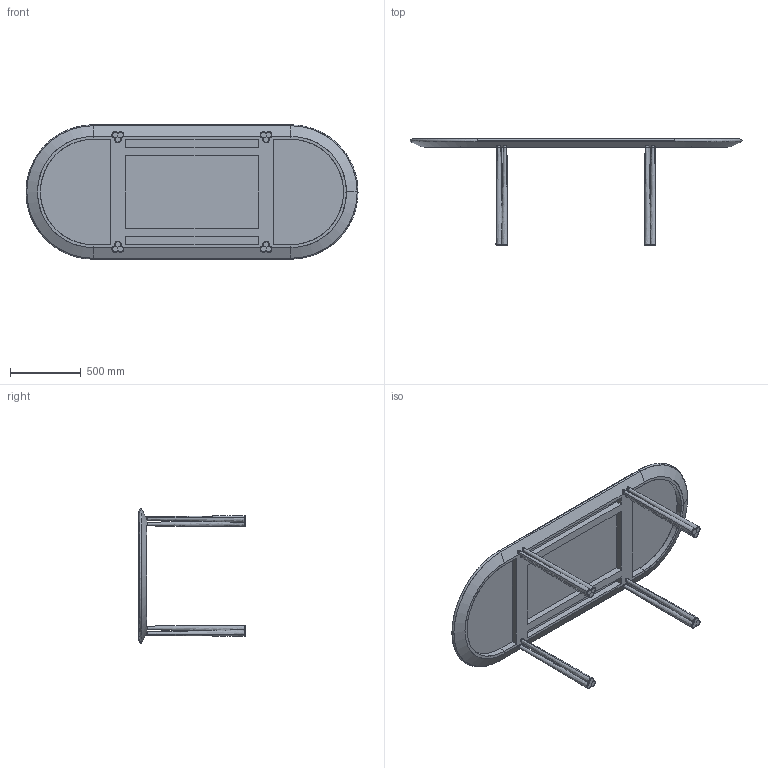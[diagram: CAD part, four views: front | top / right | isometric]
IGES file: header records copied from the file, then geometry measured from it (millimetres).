
Start section: SolidWorks IGES file using analytic representation for surfaces
Global section: file name: E:\Box Sync\Jason Miller\051 Elliot Dining Table\sales related\SW\051S Elliot Dining Table\051S Elliot Dining Table.IGS; native system: SolidWorks 2016; preprocessor: SolidWorks 2016; author: Kumagai; date: 180320.181507; units: millimetre
Bounding box: 2349.79 x 753.5 x 950 mm (x, y, z)
Surface area: 5712732.5 mm2 (no closed solid volume)
Topology: 0 solids, 0 shells, 223 faces, 5252 edges, 5252 vertices
Faces by surface type: bspline 161, revolution 62
